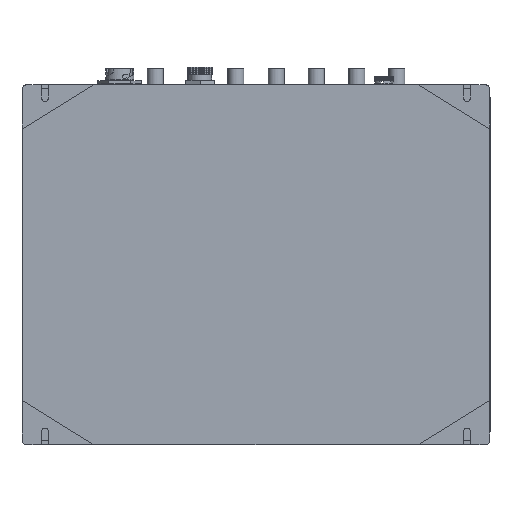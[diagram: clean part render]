
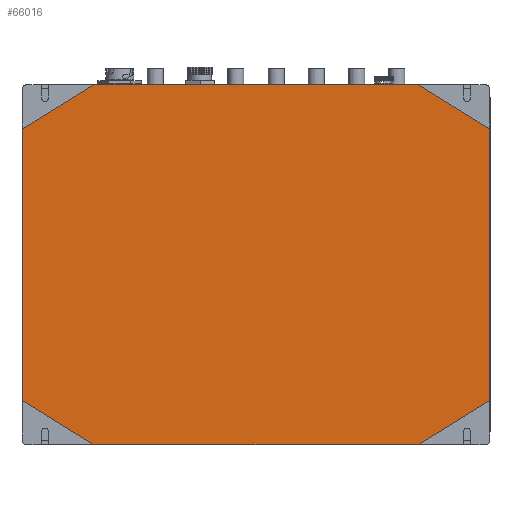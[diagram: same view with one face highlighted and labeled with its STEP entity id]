
A CAD part, front view. The second image highlights one B-rep face of the part: STEP entity #66016.
In plain terms, the highlighted planar face has unit normal (0, -1, 0).
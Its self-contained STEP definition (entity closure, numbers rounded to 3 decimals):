
#1717 = DIRECTION ( 'NONE',  ( 0., 0., -1. ) ) ;
#3079 = DIRECTION ( 'NONE',  ( 0., 0., 1. ) ) ;
#4299 = DIRECTION ( 'NONE',  ( -0.851, 0., 0.524 ) ) ;
#5772 = VECTOR ( 'NONE', #31346, 1000. ) ;
#5929 = EDGE_CURVE ( 'NONE', #82868, #10416, #60561, .T. ) ;
#7033 = AXIS2_PLACEMENT_3D ( 'NONE', #13970, #73800, #47781 ) ;
#9467 = ORIENTED_EDGE ( 'NONE', *, *, #78358, .F. ) ;
#10416 = VERTEX_POINT ( 'NONE', #54573 ) ;
#11661 = VECTOR ( 'NONE', #48166, 1000. ) ;
#12664 = LINE ( 'NONE', #62284, #11661 ) ;
#13680 = CARTESIAN_POINT ( 'NONE',  ( 141., 0., -156.5 ) ) ;
#13854 = VERTEX_POINT ( 'NONE', #74638 ) ;
#13970 = CARTESIAN_POINT ( 'NONE',  ( 0., 0., 0. ) ) ;
#16992 = CARTESIAN_POINT ( 'NONE',  ( -203.5, 0., -118. ) ) ;
#17245 = ORIENTED_EDGE ( 'NONE', *, *, #54558, .F. ) ;
#17530 = LINE ( 'NONE', #43863, #65090 ) ;
#17865 = LINE ( 'NONE', #74027, #68595 ) ;
#18236 = DIRECTION ( 'NONE',  ( 1., 0., 0. ) ) ;
#22629 = ORIENTED_EDGE ( 'NONE', *, *, #32115, .F. ) ;
#27782 = CARTESIAN_POINT ( 'NONE',  ( -141., 0., -156.5 ) ) ;
#28696 = LINE ( 'NONE', #82530, #44160 ) ;
#29468 = CARTESIAN_POINT ( 'NONE',  ( 141., 0., -156.5 ) ) ;
#31346 = DIRECTION ( 'NONE',  ( 0.851, 0., 0.524 ) ) ;
#32115 = EDGE_CURVE ( 'NONE', #13854, #56865, #77889, .T. ) ;
#40279 = ORIENTED_EDGE ( 'NONE', *, *, #68041, .F. ) ;
#42308 = CARTESIAN_POINT ( 'NONE',  ( 203.5, 0., -118. ) ) ;
#43863 = CARTESIAN_POINT ( 'NONE',  ( -141., 0., -156.5 ) ) ;
#44160 = VECTOR ( 'NONE', #3079, 1000. ) ;
#45331 = LINE ( 'NONE', #29468, #54639 ) ;
#46399 = EDGE_LOOP ( 'NONE', ( #9467, #71864, #51022, #22629, #40279, #17245, #77620, #70912 ) ) ;
#47781 = DIRECTION ( 'NONE',  ( 0., 0., -1. ) ) ;
#48166 = DIRECTION ( 'NONE',  ( 0.851, 0., -0.524 ) ) ;
#50568 = CARTESIAN_POINT ( 'NONE',  ( -203.5, 0., 118. ) ) ;
#51022 = ORIENTED_EDGE ( 'NONE', *, *, #73291, .F. ) ;
#54558 = EDGE_CURVE ( 'NONE', #10416, #58466, #57523, .T. ) ;
#54573 = CARTESIAN_POINT ( 'NONE',  ( -141., 0., 156.5 ) ) ;
#54639 = VECTOR ( 'NONE', #63244, 1000. ) ;
#56865 = VERTEX_POINT ( 'NONE', #42308 ) ;
#57523 = LINE ( 'NONE', #57874, #78224 ) ;
#57874 = CARTESIAN_POINT ( 'NONE',  ( 141., 0., 156.5 ) ) ;
#58466 = VERTEX_POINT ( 'NONE', #70456 ) ;
#58508 = CARTESIAN_POINT ( 'NONE',  ( -141., 0., 156.5 ) ) ;
#60561 = LINE ( 'NONE', #58508, #5772 ) ;
#61012 = DIRECTION ( 'NONE',  ( -0.851, 0., -0.524 ) ) ;
#62250 = VERTEX_POINT ( 'NONE', #16992 ) ;
#62284 = CARTESIAN_POINT ( 'NONE',  ( 141., 0., 156.5 ) ) ;
#63244 = DIRECTION ( 'NONE',  ( -1., 0., 0. ) ) ;
#65090 = VECTOR ( 'NONE', #4299, 1000. ) ;
#65115 = EDGE_CURVE ( 'NONE', #76149, #82668, #45331, .T. ) ;
#65657 = EDGE_CURVE ( 'NONE', #62250, #82868, #28696, .T. ) ;
#66016 = ADVANCED_FACE ( 'NONE', ( #68897 ), #73516, .T. ) ;
#67514 = VECTOR ( 'NONE', #1717, 1000. ) ;
#68041 = EDGE_CURVE ( 'NONE', #58466, #13854, #12664, .T. ) ;
#68595 = VECTOR ( 'NONE', #61012, 1000. ) ;
#68897 = FACE_OUTER_BOUND ( 'NONE', #46399, .T. ) ;
#70456 = CARTESIAN_POINT ( 'NONE',  ( 141., 0., 156.5 ) ) ;
#70912 = ORIENTED_EDGE ( 'NONE', *, *, #65657, .F. ) ;
#71864 = ORIENTED_EDGE ( 'NONE', *, *, #65115, .F. ) ;
#73291 = EDGE_CURVE ( 'NONE', #56865, #76149, #17865, .T. ) ;
#73516 = PLANE ( 'NONE',  #7033 ) ;
#73800 = DIRECTION ( 'NONE',  ( 0., -1., 0. ) ) ;
#74027 = CARTESIAN_POINT ( 'NONE',  ( 141., 0., -156.5 ) ) ;
#74638 = CARTESIAN_POINT ( 'NONE',  ( 203.5, 0., 118. ) ) ;
#76149 = VERTEX_POINT ( 'NONE', #13680 ) ;
#77620 = ORIENTED_EDGE ( 'NONE', *, *, #5929, .F. ) ;
#77889 = LINE ( 'NONE', #80315, #67514 ) ;
#78224 = VECTOR ( 'NONE', #18236, 1000. ) ;
#78358 = EDGE_CURVE ( 'NONE', #82668, #62250, #17530, .T. ) ;
#80315 = CARTESIAN_POINT ( 'NONE',  ( 203.5, 0., -118. ) ) ;
#82530 = CARTESIAN_POINT ( 'NONE',  ( -203.5, 0., -118. ) ) ;
#82668 = VERTEX_POINT ( 'NONE', #27782 ) ;
#82868 = VERTEX_POINT ( 'NONE', #50568 ) ;
